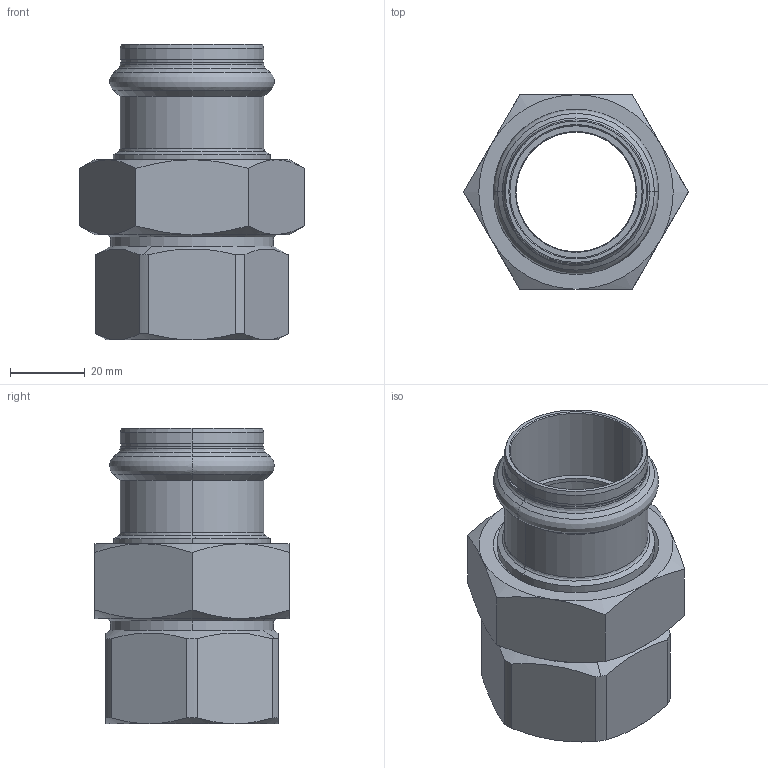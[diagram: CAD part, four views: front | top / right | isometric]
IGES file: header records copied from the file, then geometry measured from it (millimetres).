
Start section: Elysium IGES Interface
Global section: file name: F:\3d modellen sudo\S-Pr VP\SP6330GV\6330GVW35114.igs; native system: CoCreate Modeling 17.00A  17-Jun-2010; preprocessor: CoCreate IGES_3D V2.2; author: Unknown; organization: Unknown; date: 20130129.094450; units: millimetre
Bounding box: 60.04 x 52 x 79 mm (x, y, z)
Volume: 53535.4 mm3; surface area: 30849.8 mm2
Topology: 3 solids, 3 shells, 128 faces, 303 edges, 184 vertices
Faces by surface type: bspline 128
